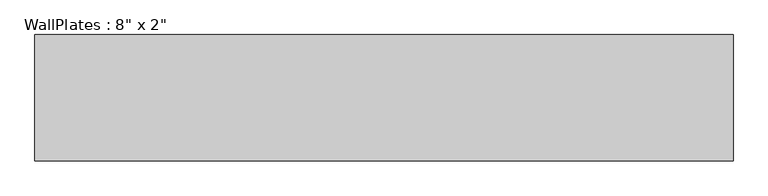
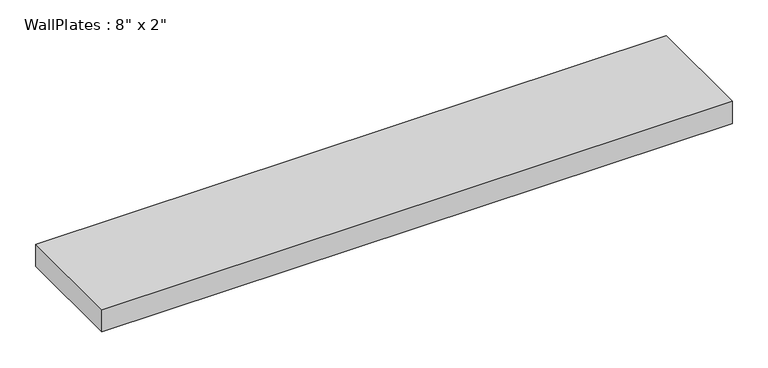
"""IFC4 building model written with IfcOpenShell, lengths in millimetres: beam geometry."""

from ifc_helpers import new_model, si_unit, frame, origin, place, context, project, spatial, polyline, outline, extrude, source, transform, mapped, element, save


def beam_1fd180ee(model_context):
    return source(origin(), model_context, "Body", "SweptSolid", [
        extrude(outline(polyline([(-508.01, -92.075), (-508.01, 92.075), (508.01, 92.075), (508.01, -92.075), (-508.01, -92.075)])), frame((0.0, 0.0, -19.05), z_axis=(0.0, 0.0, 1.0), x_axis=(1.0, 0.0, 0.0)), (0.0, 0.0, 1.0), 38.1),
    ])


if __name__ == "__main__":
    model = new_model("IFC4")
    model_context = context("Model", 3, world=origin())
    ifc_project = project(units=[si_unit("LENGTHUNIT", "METRE", prefix="MILLI")], contexts=[model_context])
    site = spatial("IfcSite", under=ifc_project)
    building = spatial("IfcBuilding", under=site)
    placement = place(None, origin())
    beam_shape = beam_1fd180ee(model_context)
    element("IfcBeam", 1, ObjectType="WallPlates : 8\" x 2\"", at=placement, inside=building, context=model_context, shape_type="MappedRepresentation", body=[
        mapped(beam_shape, transform((0.0, 0.0, 0.0), x_axis=(1.0, 0.0, 0.0), y_axis=(0.0, 1.0, 0.0), z_axis=(0.0, 0.0, 1.0))),
    ])
    save(model, "model.ifc")
